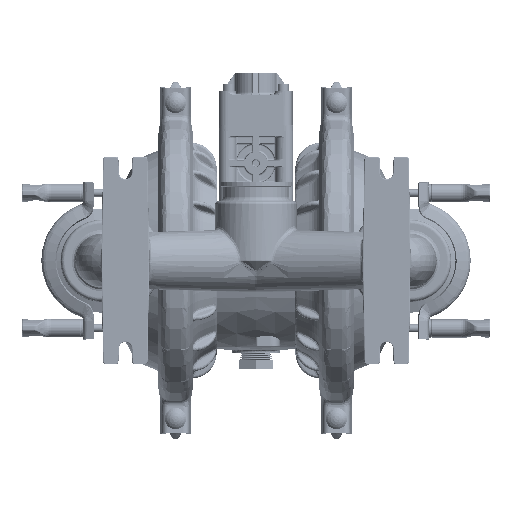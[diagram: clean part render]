
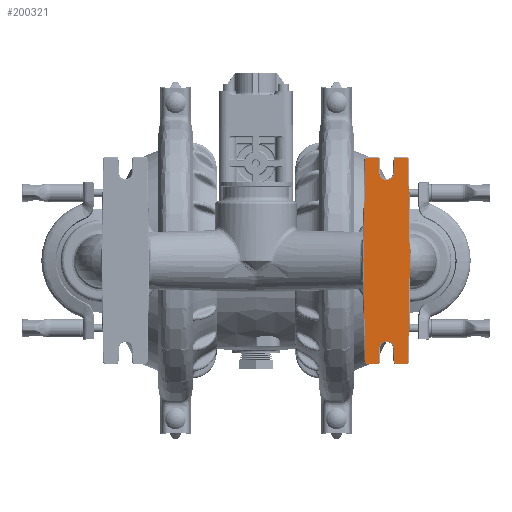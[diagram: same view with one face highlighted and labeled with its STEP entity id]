
A CAD part, front view. The second image highlights one B-rep face of the part: STEP entity #200321.
In plain terms, the highlighted planar face has unit normal (0, -1, 0).
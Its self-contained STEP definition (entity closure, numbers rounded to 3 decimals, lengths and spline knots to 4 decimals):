
#80255=DIRECTION('',(-0.017,0.,1.));
#80256=VECTOR('',#80255,3.4116);
#80257=CARTESIAN_POINT('',(3.6835,-7.682,-3.411));
#80258=LINE('',#80257,#80256);
#80259=DIRECTION('',(-0.017,0.,-1.));
#80260=VECTOR('',#80259,3.4116);
#80261=CARTESIAN_POINT('',(3.6835,-7.682,3.411));
#80262=LINE('',#80261,#80260);
#80263=CARTESIAN_POINT('',(3.7434,-7.682,3.41));
#80264=DIRECTION('',(0.,-1.,0.));
#80265=DIRECTION('',(0.,0.,1.));
#80266=AXIS2_PLACEMENT_3D('',#80263,#80264,#80265);
#80268=DIRECTION('',(-1.,0.,0.));
#80269=VECTOR('',#80268,0.3399);
#80270=CARTESIAN_POINT('',(4.0834,-7.682,3.47));
#80271=LINE('',#80270,#80269);
#80272=CARTESIAN_POINT('',(4.0834,-7.682,3.41));
#80273=DIRECTION('',(0.,-1.,0.));
#80274=DIRECTION('',(1.,0.,0.026));
#80275=AXIS2_PLACEMENT_3D('',#80272,#80273,#80274);
#80277=DIRECTION('',(-0.026,0.,1.));
#80278=VECTOR('',#80277,0.4483);
#80279=CARTESIAN_POINT('',(4.1551,-7.682,2.9635));
#80280=LINE('',#80279,#80278);
#80281=CARTESIAN_POINT('',(4.405,-7.682,2.97));
#80282=DIRECTION('',(0.,1.,0.));
#80283=DIRECTION('',(1.,0.,-0.026));
#80284=AXIS2_PLACEMENT_3D('',#80281,#80282,#80283);
#80286=DIRECTION('',(-0.026,0.,-1.));
#80287=VECTOR('',#80286,0.4483);
#80288=CARTESIAN_POINT('',(4.6666,-7.682,3.4116));
#80289=LINE('',#80288,#80287);
#80290=CARTESIAN_POINT('',(4.7266,-7.682,3.41));
#80291=DIRECTION('',(0.,-1.,0.));
#80292=DIRECTION('',(0.,0.,1.));
#80293=AXIS2_PLACEMENT_3D('',#80290,#80291,#80292);
#80295=DIRECTION('',(-1.,0.,0.));
#80296=VECTOR('',#80295,0.3399);
#80297=CARTESIAN_POINT('',(5.0666,-7.682,3.47));
#80298=LINE('',#80297,#80296);
#80299=CARTESIAN_POINT('',(5.0666,-7.682,3.41));
#80300=DIRECTION('',(0.,-1.,0.));
#80301=DIRECTION('',(1.,0.,0.017));
#80302=AXIS2_PLACEMENT_3D('',#80299,#80300,#80301);
#80304=DIRECTION('',(-0.017,0.,1.));
#80305=VECTOR('',#80304,3.4116);
#80306=CARTESIAN_POINT('',(5.1861,-7.682,0.));
#80307=LINE('',#80306,#80305);
#80308=DIRECTION('',(-0.017,0.,-1.));
#80309=VECTOR('',#80308,3.4116);
#80310=CARTESIAN_POINT('',(5.1861,-7.682,0.));
#80311=LINE('',#80310,#80309);
#80312=CARTESIAN_POINT('',(5.0666,-7.682,-3.41));
#80313=DIRECTION('',(0.,1.,0.));
#80314=DIRECTION('',(1.,0.,-0.017));
#80315=AXIS2_PLACEMENT_3D('',#80312,#80313,#80314);
#80317=DIRECTION('',(-1.,0.,0.));
#80318=VECTOR('',#80317,0.3399);
#80319=CARTESIAN_POINT('',(5.0666,-7.682,-3.47));
#80320=LINE('',#80319,#80318);
#80321=CARTESIAN_POINT('',(4.7266,-7.682,-3.41));
#80322=DIRECTION('',(0.,1.,0.));
#80323=DIRECTION('',(0.,0.,-1.));
#80324=AXIS2_PLACEMENT_3D('',#80321,#80322,#80323);
#80326=DIRECTION('',(-0.026,0.,1.));
#80327=VECTOR('',#80326,0.4483);
#80328=CARTESIAN_POINT('',(4.6666,-7.682,-3.4116));
#80329=LINE('',#80328,#80327);
#80330=CARTESIAN_POINT('',(4.405,-7.682,-2.97));
#80331=DIRECTION('',(0.,-1.,0.));
#80332=DIRECTION('',(1.,0.,0.026));
#80333=AXIS2_PLACEMENT_3D('',#80330,#80331,#80332);
#80335=DIRECTION('',(-0.026,0.,-1.));
#80336=VECTOR('',#80335,0.4483);
#80337=CARTESIAN_POINT('',(4.1551,-7.682,-2.9635));
#80338=LINE('',#80337,#80336);
#80339=CARTESIAN_POINT('',(4.0834,-7.682,-3.41));
#80340=DIRECTION('',(0.,1.,0.));
#80341=DIRECTION('',(1.,0.,-0.026));
#80342=AXIS2_PLACEMENT_3D('',#80339,#80340,#80341);
#80344=DIRECTION('',(-1.,0.,0.));
#80345=VECTOR('',#80344,0.3399);
#80346=CARTESIAN_POINT('',(4.0834,-7.682,-3.47));
#80347=LINE('',#80346,#80345);
#80348=CARTESIAN_POINT('',(3.7434,-7.682,-3.41));
#80349=DIRECTION('',(0.,1.,0.));
#80350=DIRECTION('',(0.,0.,-1.));
#80351=AXIS2_PLACEMENT_3D('',#80348,#80349,#80350);
#113206=CARTESIAN_POINT('',(3.6835,-7.682,-3.411));
#113207=CARTESIAN_POINT('',(3.6239,-7.682,0.));
#113208=VERTEX_POINT('',#113206);
#113209=VERTEX_POINT('',#113207);
#113216=CARTESIAN_POINT('',(3.7434,-7.682,-3.47));
#113217=VERTEX_POINT('',#113216);
#113220=CARTESIAN_POINT('',(4.0834,-7.682,-3.47));
#113221=VERTEX_POINT('',#113220);
#113224=CARTESIAN_POINT('',(4.1434,-7.682,-3.4116));
#113225=VERTEX_POINT('',#113224);
#113228=CARTESIAN_POINT('',(4.1551,-7.682,-2.9635));
#113229=VERTEX_POINT('',#113228);
#113232=CARTESIAN_POINT('',(4.6549,-7.682,-2.9635));
#113233=VERTEX_POINT('',#113232);
#113236=CARTESIAN_POINT('',(4.6666,-7.682,-3.4116));
#113237=VERTEX_POINT('',#113236);
#113240=CARTESIAN_POINT('',(4.7266,-7.682,-3.47));
#113241=VERTEX_POINT('',#113240);
#113244=CARTESIAN_POINT('',(5.0666,-7.682,-3.47));
#113245=VERTEX_POINT('',#113244);
#113248=CARTESIAN_POINT('',(5.1265,-7.682,-3.411));
#113249=VERTEX_POINT('',#113248);
#113252=CARTESIAN_POINT('',(5.1861,-7.682,0.));
#113253=VERTEX_POINT('',#113252);
#113256=CARTESIAN_POINT('',(3.6835,-7.682,3.411));
#113257=VERTEX_POINT('',#113256);
#113258=CARTESIAN_POINT('',(3.7434,-7.682,3.47));
#113259=VERTEX_POINT('',#113258);
#113262=CARTESIAN_POINT('',(4.0834,-7.682,3.47));
#113263=VERTEX_POINT('',#113262);
#113266=CARTESIAN_POINT('',(4.1434,-7.682,3.4116));
#113267=VERTEX_POINT('',#113266);
#113270=CARTESIAN_POINT('',(4.1551,-7.682,2.9635));
#113271=VERTEX_POINT('',#113270);
#113274=CARTESIAN_POINT('',(4.6549,-7.682,2.9635));
#113275=VERTEX_POINT('',#113274);
#113278=CARTESIAN_POINT('',(4.6666,-7.682,3.4116));
#113279=VERTEX_POINT('',#113278);
#113282=CARTESIAN_POINT('',(4.7266,-7.682,3.47));
#113283=VERTEX_POINT('',#113282);
#113286=CARTESIAN_POINT('',(5.0666,-7.682,3.47));
#113287=VERTEX_POINT('',#113286);
#113290=CARTESIAN_POINT('',(5.1265,-7.682,3.411));
#113291=VERTEX_POINT('',#113290);
#200272=CARTESIAN_POINT('',(3.655,-7.682,-3.5));
#200273=DIRECTION('',(0.,-1.,0.));
#200274=DIRECTION('',(1.,0.,0.));
#200275=AXIS2_PLACEMENT_3D('',#200272,#200273,#200274);
#200276=PLANE('',#200275);
#200277=ORIENTED_EDGE('',*,*,#200263,.T.);
#200279=ORIENTED_EDGE('',*,*,#200278,.F.);
#200281=ORIENTED_EDGE('',*,*,#200280,.F.);
#200283=ORIENTED_EDGE('',*,*,#200282,.F.);
#200285=ORIENTED_EDGE('',*,*,#200284,.F.);
#200287=ORIENTED_EDGE('',*,*,#200286,.F.);
#200289=ORIENTED_EDGE('',*,*,#200288,.F.);
#200291=ORIENTED_EDGE('',*,*,#200290,.F.);
#200293=ORIENTED_EDGE('',*,*,#200292,.F.);
#200295=ORIENTED_EDGE('',*,*,#200294,.F.);
#200297=ORIENTED_EDGE('',*,*,#200296,.F.);
#200299=ORIENTED_EDGE('',*,*,#200298,.F.);
#200301=ORIENTED_EDGE('',*,*,#200300,.T.);
#200303=ORIENTED_EDGE('',*,*,#200302,.T.);
#200305=ORIENTED_EDGE('',*,*,#200304,.T.);
#200307=ORIENTED_EDGE('',*,*,#200306,.T.);
#200309=ORIENTED_EDGE('',*,*,#200308,.T.);
#200311=ORIENTED_EDGE('',*,*,#200310,.T.);
#200313=ORIENTED_EDGE('',*,*,#200312,.T.);
#200315=ORIENTED_EDGE('',*,*,#200314,.T.);
#200317=ORIENTED_EDGE('',*,*,#200316,.T.);
#200318=ORIENTED_EDGE('',*,*,#200251,.T.);
#200319=EDGE_LOOP('',(#200277,#200279,#200281,#200283,#200285,#200287,#200289,
#200291,#200293,#200295,#200297,#200299,#200301,#200303,#200305,#200307,#200309,
#200311,#200313,#200315,#200317,#200318));
#200320=FACE_OUTER_BOUND('',#200319,.F.);
#200321=ADVANCED_FACE('',(#200320),#200276,.T.);
#80267=CIRCLE('',#80266,0.06);
#80276=CIRCLE('',#80275,0.06);
#80285=CIRCLE('',#80284,0.25);
#80294=CIRCLE('',#80293,0.06);
#80303=CIRCLE('',#80302,0.06);
#80316=CIRCLE('',#80315,0.06);
#80325=CIRCLE('',#80324,0.06);
#80334=CIRCLE('',#80333,0.25);
#80343=CIRCLE('',#80342,0.06);
#80352=CIRCLE('',#80351,0.06);
#200251=EDGE_CURVE('',#113217,#113208,#80352,.T.);
#200263=EDGE_CURVE('',#113208,#113209,#80258,.T.);
#200278=EDGE_CURVE('',#113257,#113209,#80262,.T.);
#200280=EDGE_CURVE('',#113259,#113257,#80267,.T.);
#200282=EDGE_CURVE('',#113263,#113259,#80271,.T.);
#200284=EDGE_CURVE('',#113267,#113263,#80276,.T.);
#200286=EDGE_CURVE('',#113271,#113267,#80280,.T.);
#200288=EDGE_CURVE('',#113275,#113271,#80285,.T.);
#200290=EDGE_CURVE('',#113279,#113275,#80289,.T.);
#200292=EDGE_CURVE('',#113283,#113279,#80294,.T.);
#200294=EDGE_CURVE('',#113287,#113283,#80298,.T.);
#200296=EDGE_CURVE('',#113291,#113287,#80303,.T.);
#200298=EDGE_CURVE('',#113253,#113291,#80307,.T.);
#200300=EDGE_CURVE('',#113253,#113249,#80311,.T.);
#200302=EDGE_CURVE('',#113249,#113245,#80316,.T.);
#200304=EDGE_CURVE('',#113245,#113241,#80320,.T.);
#200306=EDGE_CURVE('',#113241,#113237,#80325,.T.);
#200308=EDGE_CURVE('',#113237,#113233,#80329,.T.);
#200310=EDGE_CURVE('',#113233,#113229,#80334,.T.);
#200312=EDGE_CURVE('',#113229,#113225,#80338,.T.);
#200314=EDGE_CURVE('',#113225,#113221,#80343,.T.);
#200316=EDGE_CURVE('',#113221,#113217,#80347,.T.);
